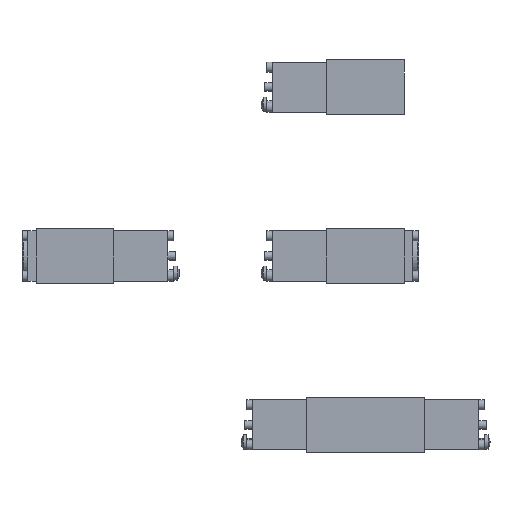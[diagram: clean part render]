
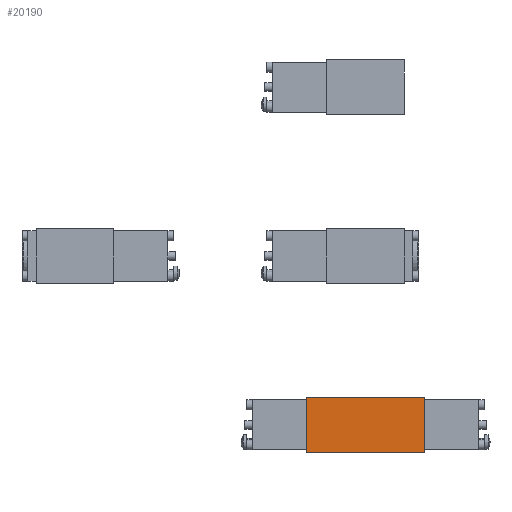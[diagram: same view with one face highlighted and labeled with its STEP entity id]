
A CAD part, front view. The second image highlights one B-rep face of the part: STEP entity #20190.
In plain terms, the highlighted planar face has unit normal (0, -1, 0).
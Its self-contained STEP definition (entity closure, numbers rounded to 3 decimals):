
#20190=ADVANCED_FACE('', (#20200), #20210, .T.);
#64510=AXIS2_PLACEMENT_3D('Ax2Pl3d', #64520, #64530, #64540);
#88350=CARTESIAN_POINT('', (82.,0.,0.));
#88360=CARTESIAN_POINT('', (0.,0.,0.));
#88370=CARTESIAN_POINT('', (82.,0.,0.));
#88670=CARTESIAN_POINT('', (82.,0.,38.));
#88680=CARTESIAN_POINT('', (82.,0.,38.));
#88770=CARTESIAN_POINT('', (0.,0.,38.));
#88780=CARTESIAN_POINT('', (0.,0.,38.));
#88890=CARTESIAN_POINT('', (82.,0.,38.));
#64520=CARTESIAN_POINT('HicPkt', (0.,0.,0.));
#105570=DIRECTION('', (1.,0.,0.));
#105630=DIRECTION('', (0.,0.,1.));
#105640=DIRECTION('', (0.,0.,1.));
#105670=DIRECTION('', (1.,0.,0.));
#64530=DIRECTION('Axis', (0.,-1.,
0.));
#64540=DIRECTION('RefDirection', (0.,
0.,-1.));
#128820=EDGE_CURVE('', #128830, #128840, #128850, .T.);
#129420=EDGE_CURVE('', #128840, #129400, #129430, .T.);
#129600=EDGE_CURVE('', #128830, #129610, #129620, .T.);
#129820=EDGE_CURVE('', #129610, #129400, #129830, .T.);
#164330=EDGE_LOOP('Edge_loop', (#164340,#164350,#164360,#164370));
#20200=FACE_OUTER_BOUND('Face_outer_bound', #164330, .T.);
#128850=LINE('Line', #88350, #182750);
#129430=LINE('Line', #88680, #182810);
#129620=LINE('Line', #88770, #182820);
#129830=LINE('Line', #88890, #182850);
#164340=ORIENTED_EDGE('', *, *, #128820, .T.);
#164350=ORIENTED_EDGE('', *, *, #129420, .T.);
#164360=ORIENTED_EDGE('', *, *, #129820, .F.);
#164370=ORIENTED_EDGE('', *, *, #129600, .F.);
#20210=PLANE('Plane', #64510);
#182750=VECTOR('', #105570, 82.);
#182810=VECTOR('', #105630, 38.);
#182820=VECTOR('', #105640, 38.);
#182850=VECTOR('', #105670, 82.);
#128830=VERTEX_POINT('', #88360);
#128840=VERTEX_POINT('', #88370);
#129400=VERTEX_POINT('', #88670);
#129610=VERTEX_POINT('', #88780);
